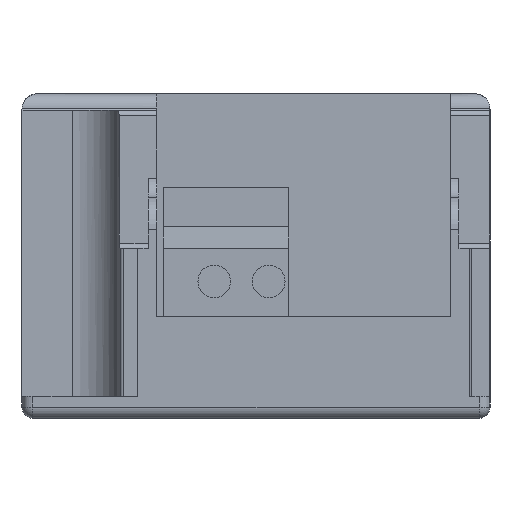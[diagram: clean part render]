
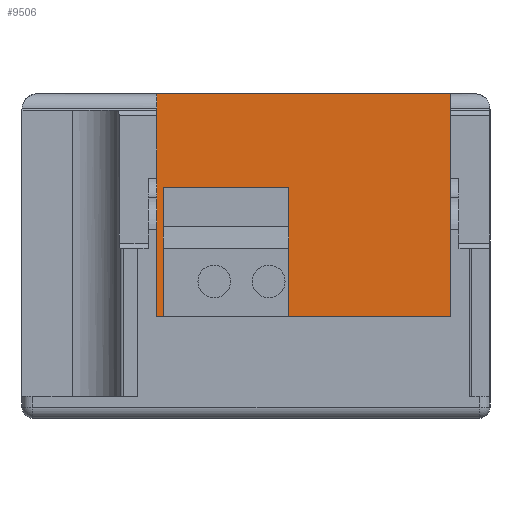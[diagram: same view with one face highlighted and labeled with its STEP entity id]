
A CAD part, left-side view. The second image highlights one B-rep face of the part: STEP entity #9506.
In plain terms, the highlighted planar face has unit normal (-1, 0, 0).
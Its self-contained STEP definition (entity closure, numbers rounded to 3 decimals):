
#3369=DIRECTION('',(0.,0.,-1.));
#3370=VECTOR('',#3369,11.5);
#3371=CARTESIAN_POINT('',(-42.5,-17.9,17.6));
#3372=LINE('',#3371,#3370);
#3376=DIRECTION('',(0.,0.,1.));
#3377=VECTOR('',#3376,11.5);
#3378=CARTESIAN_POINT('',(-42.5,9.133,6.1));
#3379=LINE('',#3378,#3377);
#3383=DIRECTION('',(0.,-1.,0.));
#3384=VECTOR('',#3383,29.233);
#3385=CARTESIAN_POINT('',(-42.5,10.233,29.8));
#3386=LINE('',#3385,#3384);
#3390=DIRECTION('',(0.,0.,-1.));
#3391=VECTOR('',#3390,12.2);
#3392=CARTESIAN_POINT('',(-42.5,-19.,29.8));
#3393=LINE('',#3392,#3391);
#3469=DIRECTION('',(0.,1.,0.));
#3470=VECTOR('',#3469,27.033);
#3471=CARTESIAN_POINT('',(-42.5,-17.9,6.1));
#3472=LINE('',#3471,#3470);
#6027=DIRECTION('',(0.,1.,0.));
#6028=VECTOR('',#6027,1.1);
#6029=CARTESIAN_POINT('',(-42.5,-19.,17.6));
#6030=LINE('',#6029,#6028);
#6094=DIRECTION('',(0.,1.,0.));
#6095=VECTOR('',#6094,1.1);
#6096=CARTESIAN_POINT('',(-42.5,9.133,17.6));
#6097=LINE('',#6096,#6095);
#6143=DIRECTION('',(0.,0.,-1.));
#6144=VECTOR('',#6143,12.2);
#6145=CARTESIAN_POINT('',(-42.5,10.233,29.8));
#6146=LINE('',#6145,#6144);
#6587=CARTESIAN_POINT('',(-42.5,10.233,17.6));
#6589=VERTEX_POINT('',#6587);
#6601=CARTESIAN_POINT('',(-42.5,-19.,17.6));
#6602=VERTEX_POINT('',#6601);
#6603=CARTESIAN_POINT('',(-42.5,10.233,29.8));
#6605=VERTEX_POINT('',#6603);
#6621=CARTESIAN_POINT('',(-42.5,-19.,29.8));
#6622=VERTEX_POINT('',#6621);
#6623=CARTESIAN_POINT('',(-42.5,-17.9,17.6));
#6625=VERTEX_POINT('',#6623);
#6627=CARTESIAN_POINT('',(-42.5,9.133,17.6));
#6629=VERTEX_POINT('',#6627);
#7340=CARTESIAN_POINT('',(-42.5,9.133,6.1));
#7342=VERTEX_POINT('',#7340);
#7346=CARTESIAN_POINT('',(-42.5,-17.9,6.1));
#7347=VERTEX_POINT('',#7346);
#9485=CARTESIAN_POINT('',(-42.5,-17.9,12.8));
#9486=DIRECTION('',(1.,0.,0.));
#9487=DIRECTION('',(0.,0.,1.));
#9488=AXIS2_PLACEMENT_3D('',#9485,#9486,#9487);
#9489=PLANE('',#9488);
#9491=ORIENTED_EDGE('',*,*,#9490,.T.);
#9493=ORIENTED_EDGE('',*,*,#9492,.T.);
#9494=ORIENTED_EDGE('',*,*,#9454,.T.);
#9496=ORIENTED_EDGE('',*,*,#9495,.T.);
#9498=ORIENTED_EDGE('',*,*,#9497,.F.);
#9499=ORIENTED_EDGE('',*,*,#8272,.T.);
#9501=ORIENTED_EDGE('',*,*,#9500,.T.);
#9503=ORIENTED_EDGE('',*,*,#9502,.T.);
#9504=EDGE_LOOP('',(#9491,#9493,#9494,#9496,#9498,#9499,#9501,#9503));
#9505=FACE_OUTER_BOUND('',#9504,.F.);
#8272=EDGE_CURVE('',#6605,#6622,#3386,.T.);
#9454=EDGE_CURVE('',#7342,#6629,#3379,.T.);
#9490=EDGE_CURVE('',#6625,#7347,#3372,.T.);
#9492=EDGE_CURVE('',#7347,#7342,#3472,.T.);
#9495=EDGE_CURVE('',#6629,#6589,#6097,.T.);
#9497=EDGE_CURVE('',#6605,#6589,#6146,.T.);
#9500=EDGE_CURVE('',#6622,#6602,#3393,.T.);
#9502=EDGE_CURVE('',#6602,#6625,#6030,.T.);
#9506=ADVANCED_FACE('',(#9505),#9489,.F.);
